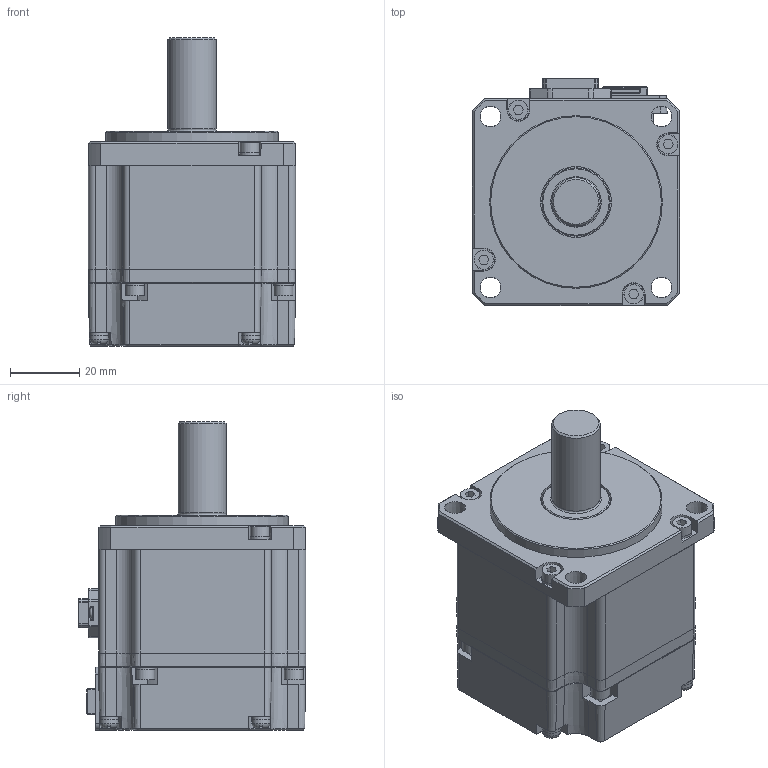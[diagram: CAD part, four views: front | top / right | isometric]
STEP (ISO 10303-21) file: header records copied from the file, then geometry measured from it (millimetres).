
FILE_DESCRIPTION (( 'STEP AP214' ), '1' );
FILE_NAME ('EM06GA003G01_Out Line(APM-EB01AM3N).STEP', '2022-11-10T03:05:44', ( '' ), ( '' ), 'SwSTEP 2.0', 'SolidWorks 2021', '' );
FILE_SCHEMA (( 'AUTOMOTIVE_DESIGN' ));
Length unit declared in the file: millimetre
Products named in the file (1): EM06GA003G01_Out Line(APM-EB01AM3N)
Bounding box: 60 x 65.9 x 89.2 mm (x, y, z)
Volume: 200769.7 mm3; surface area: 51309.4 mm2
Topology: 33 solids, 33 shells, 1405 faces, 3501 edges, 2231 vertices
Faces by surface type: plane 1026, cylinder 213, cone 103, torus 31, bspline 18, sphere 14
Full cylindrical faces by diameter (mm): 1.6 x10, 2 x2, 2.1 x2, 2.5 x12, 3 x16, 3.1 x8, 3.5 x4, 5.4 x8, 5.5 x8, 5.6 x8, 14 x1, 19.8 x1, 20.5 x1, 50 x1
Entity records: 56992 total; most frequent: CARTESIAN_POINT 8560, ORIENTED_EDGE 6668, DIRECTION 6423, EDGE_CURVE 3334, VECTOR 2483, LINE 2483, VERTEX_POINT 2192, AXIS2_PLACEMENT_3D 1970
